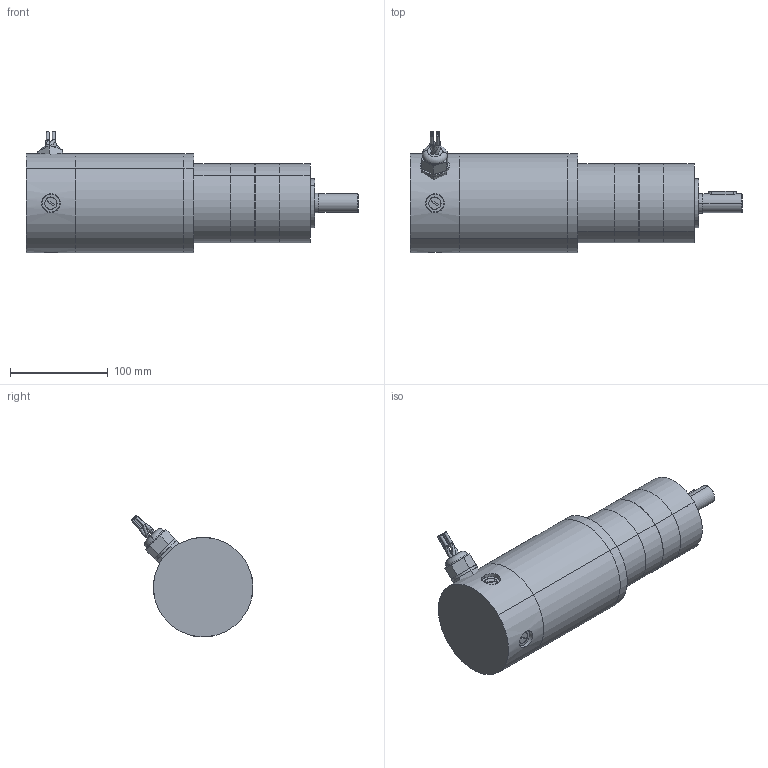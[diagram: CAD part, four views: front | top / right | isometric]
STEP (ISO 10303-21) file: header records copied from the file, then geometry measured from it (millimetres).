
FILE_DESCRIPTION (( 'STEP AP203' ), '1' );
FILE_NAME ('d40675agp2.step', '2018-12-07T19:45:24', ( '' ), ( '' ), 'SwSTEP 2.0', 'SolidWorks 2017', '' );
FILE_SCHEMA (( 'CONFIG_CONTROL_DESIGN' ));
Length unit declared in the file: inch
Products named in the file (1): d40675agp2
Bounding box: 339.2 x 124.47 x 124.47 mm (x, y, z)
Volume: 2035644.9 mm3; surface area: 214702.4 mm2
Topology: 21 solids, 21 shells, 515 faces, 1116 edges, 675 vertices
Faces by surface type: plane 216, cylinder 185, cone 65, torus 33, bspline 8, sphere 8
Entity records: 14982 total; most frequent: CARTESIAN_POINT 3457, DIRECTION 2625, ORIENTED_EDGE 2184, EDGE_CURVE 1092, AXIS2_PLACEMENT_3D 1071, VERTEX_POINT 675, EDGE_LOOP 591, CIRCLE 563
